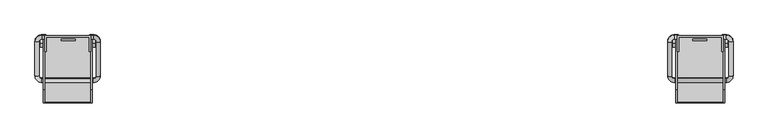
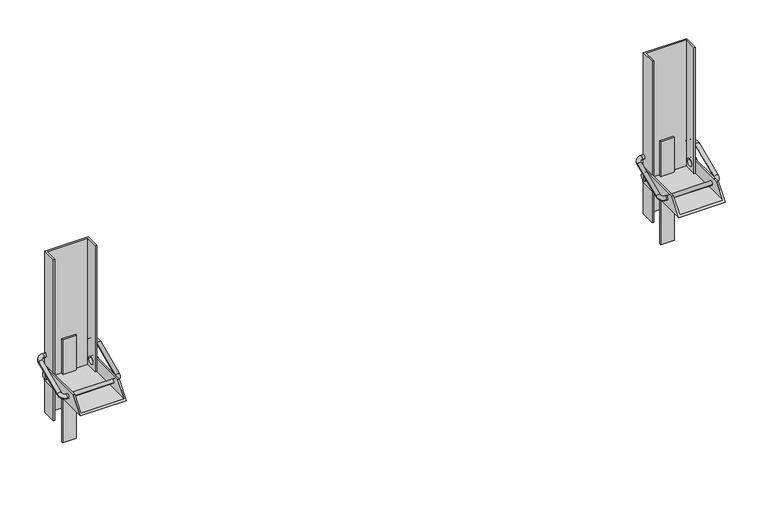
"""IFC4 building model written with IfcOpenShell, lengths in millimetres: furniture geometry, SmithSystem_AM_Table_Education_Elemental_NestAndFold_Nested_24D : 24D x 60W."""

from ifc_helpers import new_model, si_unit, point, frame, origin, place, context, project, spatial, polyline, circle_curve, ellipse_curve, trimmed, outline, extrude, source, transform, mapped, element, save
from ifc_brep_helpers import plane_surface, cylinder_surface, revolved_surface, advanced_brep


def furniture_6e8593bd(model_context):
    return source(origin(), model_context, "Body", "SolidModel", [
        advanced_brep(
        [(191.3646412, -233.0884913, 976.5612657), (102.364461, -233.0884913, 976.5612657), (102.364461, -263.8853366, 976.5612657), (105.3591064, -263.8853366, 976.5612657), (105.3591064, -236.3324929, 976.5612657), (188.3699958, -236.3324929, 976.5612657), (188.3699958, -263.8853366, 976.5612657), (191.3646412, -263.8853366, 976.5612657), (191.3646412, -233.0884913, 626.5614075), (191.3646412, -263.8853366, 626.5614075), (188.3699958, -263.8853366, 626.5614075), (188.3699958, -236.3324929, 626.5614075), (105.3591064, -236.3324929, 626.5614075), (105.3591064, -263.8853366, 626.5614075), (102.364461, -263.8853366, 626.5614075), (102.364461, -233.0884913, 626.5614075), (191.3646412, -233.0884913, 755.5311563), (189.2865294, -233.0884913, 755.5311563), (189.2865294, -233.0884913, 748.8676855), (191.3646412, -233.0884913, 748.8676855), (102.364461, -233.0884913, 748.8676855), (104.3905092, -233.0884913, 748.8676855), (104.3905092, -233.0884913, 755.5311563), (102.364461, -233.0884913, 755.5311563), (102.364461, -239.1439814, 750.5821426), (102.364461, -263.8853366, 699.4317459), (102.364461, -235.5682306, 699.4317459), (102.364461, -235.5682306, 702.6757476), (102.364461, -235.5682306, 730.2285912), (102.364461, -263.8853366, 730.2285912), (102.364461, -263.8853366, 702.6757476), (105.3591064, -263.8853366, 702.6757476), (105.3591064, -263.8853366, 699.4317459), (105.3591064, -236.3324929, 702.6757476), (105.3591064, -240.6202655, 718.1091618), (105.3591064, -255.3937208, 718.1091618), (105.3591064, -236.3324929, 699.4317459), (188.3699958, -236.3324929, 702.6757476), (188.3699958, -236.3324929, 699.4317459), (188.3699958, -263.8853366, 702.6757476), (188.3699958, -255.3937208, 718.1091618), (188.3699958, -240.6202655, 718.1091618), (188.3699958, -263.8853366, 699.4317459), (191.3646412, -263.8853366, 702.6757476), (191.3646412, -263.8853366, 730.2285912), (191.3646412, -263.8853366, 699.4317459), (191.3646412, -235.5682306, 730.2285912), (191.3646412, -235.5682306, 702.6757476), (191.3646412, -235.5682306, 699.4317459), (191.3646412, -239.1439814, 750.5821426), (99.3698156, -364.4404748, 699.4317459), (194.3592866, -364.4404748, 699.4317459), (194.3592866, -339.2625106, 730.2285912), (191.3646412, -339.2625106, 730.2285912), (191.3646412, -361.7883409, 702.6757476), (102.364461, -361.7883409, 702.6757476), (102.364461, -339.2625106, 730.2285912), (99.3698156, -339.2625106, 730.2285912), (99.3698156, -255.3937208, 718.1091618), (99.3698156, -240.6202655, 718.1091618), (194.3592866, -255.3937208, 718.1091618), (194.3592866, -240.6202655, 718.1091618), (194.3592866, -235.5682306, 730.2285912), (194.3592866, -235.5682306, 699.4317459), (99.3698156, -235.5682306, 699.4317459), (99.3698156, -235.5682306, 730.2285912), (191.3646412, -323.7756296, 713.8706356), (191.3646412, -316.3189528, 717.105192), (102.364461, -316.3189528, 717.105192), (102.364461, -323.7756296, 713.8706356), (99.3698156, -323.7756296, 713.8706356), (99.3698156, -316.3189528, 717.105192), (194.3592866, -316.3189528, 717.105192), (194.3592866, -323.7756296, 713.8706356), (189.2865294, -231.6873046, 753.8166991), (196.9664844, -231.6873046, 753.8166991), (196.9664844, -239.1439814, 750.5821426), (210.6032047, -244.1977151, 748.3899346), (202.4752047, -244.1977151, 748.3899346), (210.6032047, -311.1757086, 719.336228), (202.4752047, -311.1757086, 719.336228), (196.8689151, -323.7756296, 713.8706356), (196.8689151, -316.3189528, 717.105192), (96.7860253, -323.7756296, 713.8706356), (96.7860253, -316.3189528, 717.105192), (83.0738339, -311.1959816, 719.3274339), (91.2018339, -311.1959816, 719.3274339), (83.0738339, -244.3091339, 748.3416034), (91.2018339, -244.3091339, 748.3416034), (96.8320041, -231.6873046, 753.8166991), (96.8320041, -239.1439814, 750.5821426), (104.3905092, -231.6873046, 753.8166991)],
        [
            (0, 1),
            (1, 2),
            (2, 3),
            (3, 4),
            (4, 5),
            (5, 6),
            (6, 7),
            (7, 0),
            (8, 9),
            (9, 10),
            (10, 11),
            (11, 12),
            (12, 13),
            (13, 14),
            (14, 15),
            (15, 8),
            (0, 16),
            (16, 17),
            (17, 18),
            (18, 19),
            (19, 8),
            (15, 20),
            (20, 21),
            (21, 22),
            (22, 23),
            (23, 1),
            (23, 24, circle_curve(frame((102.364461, -235.415643, 752.1994209), z_axis=(1.0, 0.0, 0.0), x_axis=(0.0, 0.9174061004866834, 0.3979523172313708)), 4.064)),
            (24, 20, circle_curve(frame((102.364461, -235.415643, 752.1994209), z_axis=(1.0, 0.0, 0.0), x_axis=(0.0, 0.9174061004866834, 0.3979523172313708)), 4.064)),
            (14, 25),
            (25, 26),
            (26, 27),
            (27, 28),
            (28, 29),
            (29, 2),
            (29, 30),
            (30, 31),
            (31, 3),
            (13, 32),
            (32, 25),
            (31, 33),
            (33, 4),
            (34, 35, circle_curve(frame((105.3591064, -248.0069931, 718.1091618), z_axis=(-1.0, 0.0, 0.0), x_axis=(0.0, 1.0, 0.0)), 7.3867277)),
            (35, 34, circle_curve(frame((105.3591064, -248.0069931, 718.1091618), z_axis=(-1.0, 0.0, 0.0), x_axis=(0.0, 1.0, 0.0)), 7.3867277)),
            (12, 36),
            (36, 32),
            (33, 37),
            (37, 5),
            (11, 38),
            (38, 36),
            (37, 39),
            (39, 6),
            (40, 41, circle_curve(frame((188.3699958, -248.0069931, 718.1091618), z_axis=(1.0, 0.0, 0.0), x_axis=(0.0, 1.0, 0.0)), 7.3867277)),
            (41, 40, circle_curve(frame((188.3699958, -248.0069931, 718.1091618), z_axis=(1.0, 0.0, 0.0), x_axis=(0.0, 1.0, 0.0)), 7.3867277)),
            (10, 42),
            (42, 38),
            (39, 43),
            (43, 44),
            (44, 7),
            (9, 45),
            (45, 42),
            (44, 46),
            (46, 47),
            (47, 48),
            (48, 45),
            (19, 49, circle_curve(frame((191.3646412, -235.415643, 752.1994209), z_axis=(-1.0, 0.0, 0.0), x_axis=(0.0, 0.9174061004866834, 0.3979523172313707)), 4.064)),
            (49, 16, circle_curve(frame((191.3646412, -235.415643, 752.1994209), z_axis=(-1.0, 0.0, 0.0), x_axis=(0.0, 0.9174061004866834, 0.3979523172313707)), 4.064)),
            (50, 51),
            (51, 52),
            (52, 53),
            (53, 54),
            (54, 55),
            (55, 56),
            (56, 57),
            (57, 50),
            (58, 35),
            (34, 59),
            (59, 58, circle_curve(frame((99.3698156, -248.0069931, 718.1091618), z_axis=(-1.0, 0.0, 0.0), x_axis=(0.0, 1.0, 0.0)), 7.3867277)),
            (40, 60),
            (60, 61, circle_curve(frame((194.3592866, -248.0069931, 718.1091618), z_axis=(1.0, 0.0, 0.0), x_axis=(0.0, 1.0, 0.0)), 7.3867277)),
            (61, 41),
            (58, 59, circle_curve(frame((99.3698156, -248.0069931, 718.1091618), z_axis=(-1.0, 0.0, 0.0), x_axis=(0.0, 1.0, 0.0)), 7.3867277)),
            (61, 60, circle_curve(frame((194.3592866, -248.0069931, 718.1091618), z_axis=(1.0, 0.0, 0.0), x_axis=(0.0, 1.0, 0.0)), 7.3867277)),
            (46, 62),
            (62, 63),
            (63, 48),
            (64, 65),
            (65, 28),
            (26, 64),
            (63, 51),
            (50, 64),
            (43, 54),
            (53, 44),
            (66, 67, circle_curve(frame((191.3646412, -320.0472912, 715.4879138), z_axis=(1.0, 0.0, 0.0), x_axis=(0.0, -0.9174061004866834, -0.3979523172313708)), 4.064)),
            (67, 66, circle_curve(frame((191.3646412, -320.0472912, 715.4879138), z_axis=(1.0, 0.0, 0.0), x_axis=(0.0, -0.9174061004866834, -0.3979523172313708)), 4.064)),
            (52, 62),
            (30, 55),
            (65, 57),
            (56, 29),
            (68, 69, circle_curve(frame((102.364461, -320.0472912, 715.4879138), z_axis=(-1.0, 0.0, 0.0), x_axis=(0.0, -0.9174061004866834, -0.3979523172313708)), 4.064)),
            (69, 68, circle_curve(frame((102.364461, -320.0472912, 715.4879138), z_axis=(-1.0, 0.0, 0.0), x_axis=(0.0, -0.9174061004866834, -0.3979523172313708)), 4.064)),
            (70, 71, circle_curve(frame((99.3698156, -320.0472912, 715.4879138), z_axis=(1.0, 0.0, 0.0), x_axis=(0.0, -0.9174061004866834, -0.3979523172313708)), 4.064)),
            (71, 70, circle_curve(frame((99.3698156, -320.0472912, 715.4879138), z_axis=(1.0, 0.0, 0.0), x_axis=(0.0, -0.9174061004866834, -0.3979523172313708)), 4.064)),
            (72, 73, circle_curve(frame((194.3592866, -320.0472912, 715.4879138), z_axis=(-1.0, 0.0, 0.0), x_axis=(0.0, -0.9174061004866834, -0.3979523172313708)), 4.064)),
            (73, 72, circle_curve(frame((194.3592866, -320.0472912, 715.4879138), z_axis=(-1.0, 0.0, 0.0), x_axis=(0.0, -0.9174061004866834, -0.3979523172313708)), 4.064)),
            (17, 74, circle_curve(frame((189.2865294, -235.415643, 752.1994209), z_axis=(-1.0, 0.0, 0.0), x_axis=(0.0, 0.9174061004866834, 0.3979523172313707)), 4.064)),
            (74, 18, circle_curve(frame((189.2865294, -235.415643, 752.1994209), z_axis=(-1.0, 0.0, 0.0), x_axis=(0.0, 0.9174061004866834, 0.3979523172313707)), 4.064)),
            (74, 75),
            (75, 76, circle_curve(frame((196.9664844, -235.415643, 752.1994209), z_axis=(-1.0, 0.0, 0.0), x_axis=(0.0, 0.9174061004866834, 0.3979523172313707)), 4.064)),
            (76, 49),
            (76, 75, circle_curve(frame((196.9664844, -235.415643, 752.1994209), z_axis=(-1.0, 0.0, 0.0), x_axis=(0.0, 0.9174061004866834, 0.3979523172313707)), 4.064)),
            (75, 77, circle_curve(frame((196.9664844, -244.1977151, 748.3899346), z_axis=(0.0, 0.39795231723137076, -0.9174061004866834), x_axis=(0.0, 0.9174061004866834, 0.39795231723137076)), 13.6367204)),
            (77, 78, circle_curve(frame((206.5392047, -244.1977151, 748.3899346), z_axis=(0.0, 0.9174061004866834, 0.3979523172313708), x_axis=(1.0, 0.0, 0.0)), 4.064)),
            (78, 76, circle_curve(frame((196.9664844, -244.1977151, 748.3899346), z_axis=(0.0, -0.39795231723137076, 0.9174061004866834), x_axis=(0.0, 0.9174061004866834, 0.39795231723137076)), 5.5087204)),
            (78, 77, circle_curve(frame((206.5392047, -244.1977151, 748.3899346), z_axis=(0.0, 0.9174061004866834, 0.3979523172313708), x_axis=(1.0, 0.0, 0.0)), 4.064)),
            (77, 79),
            (79, 80, circle_curve(frame((206.5392047, -311.1757086, 719.336228), z_axis=(0.0, 0.917406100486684, 0.39795231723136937), x_axis=(1.0, 0.0, 0.0)), 4.064)),
            (80, 78),
            (80, 79, circle_curve(frame((206.5392047, -311.1757086, 719.336228), z_axis=(0.0, 0.917406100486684, 0.39795231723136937), x_axis=(1.0, 0.0, 0.0)), 4.064)),
            (79, 81, circle_curve(frame((196.8689151, -311.1757086, 719.336228), z_axis=(0.0, 0.39795231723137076, -0.9174061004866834), x_axis=(1.0, 0.0, 0.0)), 13.7342896)),
            (81, 82, circle_curve(frame((196.8689151, -320.0472912, 715.4879138), z_axis=(1.0, 0.0, 0.0), x_axis=(0.0, -0.9174061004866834, -0.39795231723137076)), 4.064)),
            (82, 80, circle_curve(frame((196.8689151, -311.1757086, 719.336228), z_axis=(0.0, -0.39795231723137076, 0.9174061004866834), x_axis=(1.0, 0.0, 0.0)), 5.6062896)),
            (82, 81, circle_curve(frame((196.8689151, -320.0472912, 715.4879138), z_axis=(1.0, 0.0, 0.0), x_axis=(0.0, -0.9174061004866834, -0.39795231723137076)), 4.064)),
            (81, 73),
            (72, 82),
            (83, 84, circle_curve(frame((96.7860253, -320.0472912, 715.4879138), z_axis=(1.0, 0.0, 0.0), x_axis=(0.0, -0.9174061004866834, -0.3979523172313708)), 4.064)),
            (84, 71),
            (70, 83),
            (66, 69),
            (68, 67),
            (84, 83, circle_curve(frame((96.7860253, -320.0472912, 715.4879138), z_axis=(1.0, 0.0, 0.0), x_axis=(0.0, -0.9174061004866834, -0.3979523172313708)), 4.064)),
            (83, 85, circle_curve(frame((96.7860253, -311.1959816, 719.3274339), z_axis=(0.0, 0.39795231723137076, -0.9174061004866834), x_axis=(0.0, -0.9174061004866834, -0.39795231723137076)), 13.7121914)),
            (85, 86, circle_curve(frame((87.1378339, -311.1959816, 719.3274339), z_axis=(0.0, -0.9174061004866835, -0.3979523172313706), x_axis=(-1.0, 0.0, 0.0)), 4.064)),
            (86, 84, circle_curve(frame((96.7860253, -311.1959816, 719.3274339), z_axis=(0.0, -0.39795231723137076, 0.9174061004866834), x_axis=(0.0, -0.9174061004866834, -0.39795231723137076)), 5.5841914)),
            (86, 85, circle_curve(frame((87.1378339, -311.1959816, 719.3274339), z_axis=(0.0, -0.9174061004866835, -0.3979523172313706), x_axis=(-1.0, 0.0, 0.0)), 4.064)),
            (85, 87),
            (87, 88, circle_curve(frame((87.1378339, -244.3091339, 748.3416034), z_axis=(0.0, -0.917406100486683, -0.3979523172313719), x_axis=(-1.0, 0.0, 0.0)), 4.064)),
            (88, 86),
            (88, 87, circle_curve(frame((87.1378339, -244.3091339, 748.3416034), z_axis=(0.0, -0.917406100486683, -0.3979523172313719), x_axis=(-1.0, 0.0, 0.0)), 4.064)),
            (87, 89, circle_curve(frame((96.8320041, -244.3091339, 748.3416034), z_axis=(0.0, 0.39795231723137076, -0.9174061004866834), x_axis=(-1.0, 0.0, 0.0)), 13.7581702)),
            (89, 90, circle_curve(frame((96.8320041, -235.415643, 752.1994209), z_axis=(-1.0, 0.0, 0.0), x_axis=(0.0, 0.9174061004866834, 0.39795231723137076)), 4.064)),
            (90, 88, circle_curve(frame((96.8320041, -244.3091339, 748.3416034), z_axis=(0.0, -0.39795231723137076, 0.9174061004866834), x_axis=(-1.0, 0.0, 0.0)), 5.6301702)),
            (90, 89, circle_curve(frame((96.8320041, -235.415643, 752.1994209), z_axis=(-1.0, 0.0, 0.0), x_axis=(0.0, 0.9174061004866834, 0.39795231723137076)), 4.064)),
            (21, 91, circle_curve(frame((104.3905092, -235.415643, 752.1994209), z_axis=(1.0, 0.0, 0.0), x_axis=(0.0, 0.9174061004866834, 0.3979523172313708)), 4.064)),
            (91, 22, circle_curve(frame((104.3905092, -235.415643, 752.1994209), z_axis=(1.0, 0.0, 0.0), x_axis=(0.0, 0.9174061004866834, 0.3979523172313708)), 4.064)),
            (89, 91),
            (24, 90),
        ],
        [
            plane_surface(frame((102.364461, -233.0884913, 976.5612657), z_axis=(0.0, 0.0, 1.0), x_axis=(-1.0, 0.0, 0.0))),
            plane_surface(frame((102.364461, -233.0884913, 626.5614075), z_axis=(0.0, 0.0, -1.0), x_axis=(1.0, 0.0, 0.0))),
            plane_surface(frame((191.3646412, -233.0884913, 976.5612657), z_axis=(0.0, 1.0, 0.0), x_axis=(0.0, 0.0, -1.0))),
            plane_surface(frame((102.364461, -233.0884913, 976.5612657), z_axis=(-1.0, 0.0, 0.0), x_axis=(0.0, 0.0, -1.0))),
            plane_surface(frame((102.364461, -263.8853366, 976.5612657), z_axis=(0.0, -1.0, 0.0), x_axis=(0.0, 0.0, -1.0))),
            plane_surface(frame((105.3591064, -263.8853366, 976.5612657), z_axis=(1.0, 0.0, 0.0), x_axis=(0.0, 0.0, -1.0))),
            plane_surface(frame((105.3591064, -236.3324929, 976.5612657), z_axis=(0.0, -1.0, 0.0), x_axis=(0.0, 0.0, -1.0))),
            plane_surface(frame((188.3699958, -236.3324929, 976.5612657), z_axis=(-1.0, 0.0, 0.0), x_axis=(0.0, 0.0, -1.0))),
            plane_surface(frame((188.3699958, -263.8853366, 976.5612657), z_axis=(0.0, -1.0, 0.0), x_axis=(0.0, 0.0, -1.0))),
            plane_surface(frame((191.3646412, -263.8853366, 976.5612657), z_axis=(1.0, 0.0, 0.0), x_axis=(0.0, 0.0, -1.0))),
            plane_surface(frame((1735.1900265, -372.1853048, 689.9585284), z_axis=(0.0, -0.7741969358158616, 0.6329447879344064), x_axis=(-1.0, 0.0, 0.0))),
            revolved_surface(polyline([(105.3591064, -240.6202654, 718.1091618), (99.3698156, -240.6202654, 718.1091618)]), (0.0, -248.0069931, 718.1091618), (1.0, 0.0, 0.0)),
            revolved_surface(polyline([(194.3592866, -240.6202654, 718.1091618), (188.3699958, -240.6202654, 718.1091618)]), (0.0, -248.0069931, 718.1091618), (1.0, 0.0, 0.0)),
            plane_surface(frame((102.364461, -235.5682306, 730.2285912), z_axis=(0.0, 1.0, 0.0), x_axis=(0.0, 0.0, -1.0))),
            plane_surface(frame((99.3698156, -379.4353892, 699.4317459), z_axis=(0.0, 0.0, -1.0), x_axis=(0.0, 1.0, 0.0))),
            plane_surface(frame((191.3646412, -379.4353892, 730.2285912), z_axis=(-1.0, 0.0, 0.0), x_axis=(0.0, 1.0, 0.0))),
            plane_surface(frame((194.3592866, -379.4353892, 730.2285912), z_axis=(0.0, 0.0, 1.0), x_axis=(0.0, 1.0, 0.0))),
            plane_surface(frame((191.3646412, -379.4353892, 702.6757476), z_axis=(0.0, 0.0, 1.0), x_axis=(0.0, 1.0, 0.0))),
            plane_surface(frame((102.364461, -379.4353892, 730.2285912), z_axis=(0.0, 0.0, 1.0), x_axis=(0.0, 1.0, 0.0))),
            plane_surface(frame((102.364461, -379.4353892, 702.6757476), z_axis=(1.0, 0.0, 0.0), x_axis=(0.0, 1.0, 0.0))),
            plane_surface(frame((99.3698156, -379.4353892, 730.2285912), z_axis=(-1.0, 0.0, 0.0), x_axis=(0.0, 1.0, 0.0))),
            plane_surface(frame((194.3592866, -379.4353892, 699.4317459), z_axis=(1.0, 0.0, 0.0), x_axis=(0.0, 1.0, 0.0))),
            plane_surface(frame((189.2865294, -240.7675718, 754.3284549), z_axis=(-1.0, 0.0, 0.0), x_axis=(0.0, -0.3979523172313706, 0.9174061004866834))),
            cylinder_surface(frame((189.2865294, -235.415643, 752.1994209), z_axis=(-1.0, 0.0, 0.0), x_axis=(0.0, 0.9174061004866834, 0.3979523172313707)), 4.064),
            revolved_surface(trimmed(ellipse_curve(frame((196.9664844, -235.415643, 752.1994209), z_axis=(-1.0, 0.0, 0.0), x_axis=(0.0, 0.9174061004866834, 0.3979523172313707)), 4.064, 4.064), [point((196.9664844, -231.6873046, 753.8166991))], [point((196.9664844, -239.1439814, 750.5821426))], True, "CARTESIAN"), (196.9664844, -245.8225549, 752.1357049), (0.0, 0.39795231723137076, -0.9174061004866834)),
            revolved_surface(trimmed(ellipse_curve(frame((196.9664844, -235.415643, 752.1994209), z_axis=(-1.0, 0.0, 0.0), x_axis=(0.0, 0.9174061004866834, 0.3979523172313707)), 4.064, 4.064), [point((196.9664844, -239.1439814, 750.5821426))], [point((196.9664844, -231.6873046, 753.8166991))], True, "CARTESIAN"), (196.9664844, -245.8225549, 752.1357049), (0.0, 0.39795231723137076, -0.9174061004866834)),
            cylinder_surface(frame((206.5392047, -244.1977151, 748.3899346), z_axis=(0.0, 0.917406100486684, 0.39795231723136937), x_axis=(1.0, 0.0, 0.0)), 4.064),
            revolved_surface(trimmed(ellipse_curve(frame((206.5392047, -311.1757086, 719.336228), z_axis=(0.0, 0.9174061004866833, 0.3979523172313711), x_axis=(1.0, 0.0, 0.0)), 4.064, 4.064), [point((210.6032047, -311.1757086, 719.336228))], [point((202.4752047, -311.1757086, 719.336228))], True, "CARTESIAN"), (196.8689151, -312.8005484, 723.0819983), (0.0, 0.39795231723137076, -0.9174061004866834)),
            revolved_surface(trimmed(ellipse_curve(frame((206.5392047, -311.1757086, 719.336228), z_axis=(0.0, 0.9174061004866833, 0.3979523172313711), x_axis=(1.0, 0.0, 0.0)), 4.064, 4.064), [point((202.4752047, -311.1757086, 719.336228))], [point((210.6032047, -311.1757086, 719.336228))], True, "CARTESIAN"), (196.8689151, -312.8005484, 723.0819983), (0.0, 0.39795231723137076, -0.9174061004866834)),
            cylinder_surface(frame((196.8689151, -320.0472912, 715.4879138), z_axis=(1.0000000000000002, 0.0, 0.0), x_axis=(0.0, -0.9174061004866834, -0.3979523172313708)), 4.064),
            revolved_surface(trimmed(ellipse_curve(frame((96.7860253, -320.0472912, 715.4879138), z_axis=(1.0, 0.0, 0.0), x_axis=(0.0, -0.9174061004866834, -0.3979523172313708)), 4.064, 4.064), [point((96.7860253, -323.7756296, 713.8706356))], [point((96.7860253, -316.3189528, 717.105192))], True, "CARTESIAN"), (96.7860253, -312.8208215, 723.0732043), (0.0, 0.39795231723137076, -0.9174061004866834)),
            revolved_surface(trimmed(ellipse_curve(frame((96.7860253, -320.0472912, 715.4879138), z_axis=(1.0, 0.0, 0.0), x_axis=(0.0, -0.9174061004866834, -0.3979523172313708)), 4.064, 4.064), [point((96.7860253, -316.3189528, 717.105192))], [point((96.7860253, -323.7756296, 713.8706356))], True, "CARTESIAN"), (96.7860253, -312.8208215, 723.0732043), (0.0, 0.39795231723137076, -0.9174061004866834)),
            cylinder_surface(frame((87.1378339, -311.1959816, 719.3274339), z_axis=(0.0, -0.9174061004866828, -0.3979523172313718), x_axis=(-1.0, 0.0, 0.0)), 4.064),
            revolved_surface(trimmed(ellipse_curve(frame((87.1378339, -244.3091339, 748.3416034), z_axis=(0.0, -0.9174061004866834, -0.39795231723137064), x_axis=(-1.0, 0.0, 0.0)), 4.064, 4.064), [point((83.0738339, -244.3091339, 748.3416034))], [point((91.2018339, -244.3091339, 748.3416034))], True, "CARTESIAN"), (96.8320041, -245.9339738, 752.0873737), (0.0, 0.39795231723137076, -0.9174061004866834)),
            revolved_surface(trimmed(ellipse_curve(frame((87.1378339, -244.3091339, 748.3416034), z_axis=(0.0, -0.9174061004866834, -0.39795231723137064), x_axis=(-1.0, 0.0, 0.0)), 4.064, 4.064), [point((91.2018339, -244.3091339, 748.3416034))], [point((83.0738339, -244.3091339, 748.3416034))], True, "CARTESIAN"), (96.8320041, -245.9339738, 752.0873737), (0.0, 0.39795231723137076, -0.9174061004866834)),
            plane_surface(frame((104.3905092, -240.7675718, 754.3284549), z_axis=(1.0, 0.0, 0.0), x_axis=(0.0, -0.39795231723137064, 0.9174061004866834))),
            cylinder_surface(frame((96.8320041, -235.415643, 752.1994209), z_axis=(-1.0, 0.0, 0.0), x_axis=(0.0, 0.9174061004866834, 0.3979523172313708)), 4.064),
        ],
        [
            (0, [[1, 2, 3, 4, 5, 6, 7, 8]]),
            (1, [[9, 10, 11, 12, 13, 14, 15, 16]]),
            (2, [[-1, 17, 18, 19, 20, 21, -16, 22, 23, 24, 25, 26]]),
            (3, [[-2, -26, 27, 28, -22, -15, 29, 30, 31, 32, 33, 34]]),
            (4, [[-3, -34, 35, 36, 37]]),
            (4, [[-14, 38, 39, -29]]),
            (5, [[-4, -37, 40, 41], [42, 43]]),
            (5, [[-13, 44, 45, -38]]),
            (6, [[-5, -41, 46, 47]]),
            (6, [[-12, 48, 49, -44]]),
            (7, [[-6, -47, 50, 51], [52, 53]]),
            (7, [[-11, 54, 55, -48]]),
            (8, [[-7, -51, 56, 57, 58]]),
            (8, [[-10, 59, 60, -54]]),
            (9, [[-8, -58, 61, 62, 63, 64, -59, -9, -21, 65, 66, -17]]),
            (10, [[67, 68, 69, 70, 71, 72, 73, 74]]),
            (11, [[75, -42, 76, 77]]),
            (12, [[78, 79, 80, -52]]),
            (11, [[-75, 81, -76, -43]]),
            (12, [[-78, -53, -80, 82]]),
            (13, [[83, 84, 85, -63, -62]]),
            (13, [[86, 87, -32, -31, 88]]),
            (14, [[-88, -30, -39, -45, -49, -55, -60, -64, -85, 89, -67, 90]]),
            (15, [[-57, 91, -70, 92], [93, 94]]),
            (16, [[-83, -61, -92, -69, 95]]),
            (17, [[-36, 96, -71, -91, -56, -50, -46, -40]]),
            (18, [[-87, 97, -73, 98, -33]]),
            (19, [[-35, -98, -72, -96], [99, 100]]),
            (20, [[-86, -90, -74, -97], [-77, -81], [101, 102]]),
            (21, [[-84, -95, -68, -89], [-79, -82], [103, 104]]),
            (22, [[105, 106, -19]]),
            (23, [[107, 108, 109, -65, -20, -106]]),
            (23, [[-107, -105, -18, -66, -109, 110]]),
            (24, [[-108, 111, 112, 113]]),
            (25, [[-110, -113, 114, -111]]),
            (26, [[-112, 115, 116, 117]]),
            (26, [[-114, -117, 118, -115]]),
            (27, [[-116, 119, 120, 121]]),
            (28, [[-118, -121, 122, -119]]),
            (29, [[-120, 123, -103, 124]]),
            (29, [[125, 126, -101, 127]]),
            (29, [[128, -99, 129, -93]]),
            (29, [[-122, -124, -104, -123]]),
            (29, [[-128, -94, -129, -100]]),
            (29, [[130, -127, -102, -126]]),
            (30, [[-125, 131, 132, 133]]),
            (31, [[-130, -133, 134, -131]]),
            (32, [[-132, 135, 136, 137]]),
            (32, [[-134, -137, 138, -135]]),
            (33, [[-136, 139, 140, 141]]),
            (34, [[-138, -141, 142, -139]]),
            (35, [[143, 144, -24]]),
            (36, [[-140, 145, -143, -23, -28, 146]]),
            (36, [[-142, -146, -27, -25, -144, -145]]),
        ],
    ),
        advanced_brep(
        [(1332.6353588, -233.0884913, 976.5612657), (1332.6353588, -263.8853366, 976.5612657), (1335.6300042, -263.8853366, 976.5612657), (1335.6300042, -236.3324929, 976.5612657), (1418.6408936, -236.3324929, 976.5612657), (1418.6408936, -263.8853366, 976.5612657), (1421.635539, -263.8853366, 976.5612657), (1421.635539, -233.0884913, 976.5612657), (1332.6353588, -233.0884913, 626.5614075), (1421.635539, -233.0884913, 626.5614075), (1421.635539, -263.8853366, 626.5614075), (1418.6408936, -263.8853366, 626.5614075), (1418.6408936, -236.3324929, 626.5614075), (1335.6300042, -236.3324929, 626.5614075), (1335.6300042, -263.8853366, 626.5614075), (1332.6353588, -263.8853366, 626.5614075), (1332.6353588, -233.0884913, 755.5311563), (1332.6353588, -239.1439814, 750.5821426), (1332.6353588, -233.0884913, 748.8676855), (1332.6353588, -263.8853366, 699.4317459), (1332.6353588, -235.5682306, 699.4317459), (1332.6353588, -235.5682306, 702.6757476), (1332.6353588, -235.5682306, 730.2285912), (1332.6353588, -263.8853366, 730.2285912), (1332.6353588, -263.8853366, 702.6757476), (1335.6300042, -263.8853366, 702.6757476), (1335.6300042, -263.8853366, 699.4317459), (1335.6300042, -236.3324929, 702.6757476), (1335.6300042, -240.6202655, 718.1091618), (1335.6300042, -255.3937208, 718.1091618), (1335.6300042, -236.3324929, 699.4317459), (1418.6408936, -236.3324929, 702.6757476), (1418.6408936, -236.3324929, 699.4317459), (1418.6408936, -263.8853366, 702.6757476), (1418.6408936, -255.3937208, 718.1091618), (1418.6408936, -240.6202655, 718.1091618), (1418.6408936, -263.8853366, 699.4317459), (1421.635539, -263.8853366, 702.6757476), (1421.635539, -263.8853366, 730.2285912), (1421.635539, -263.8853366, 699.4317459), (1421.635539, -235.5682306, 730.2285912), (1421.635539, -235.5682306, 702.6757476), (1421.635539, -235.5682306, 699.4317459), (1421.635539, -233.0884913, 748.8676855), (1421.635539, -239.1439814, 750.5821426), (1421.635539, -233.0884913, 755.5311563), (1419.6094908, -233.0884913, 755.5311563), (1419.6094908, -233.0884913, 748.8676855), (1334.7134706, -233.0884913, 748.8676855), (1334.7134706, -233.0884913, 755.5311563), (1421.635539, -361.7883409, 702.6757476), (1332.6353588, -361.7883409, 702.6757476), (1332.6353588, -339.2625106, 730.2285912), (1329.6407134, -339.2625106, 730.2285912), (1329.6407134, -364.4404748, 699.4317459), (1424.6301844, -364.4404748, 699.4317459), (1424.6301844, -339.2625106, 730.2285912), (1421.635539, -339.2625106, 730.2285912), (1424.6301844, -255.3937208, 718.1091618), (1424.6301844, -240.6202655, 718.1091618), (1329.6407134, -255.3937208, 718.1091618), (1329.6407134, -240.6202655, 718.1091618), (1424.6301844, -235.5682306, 730.2285912), (1424.6301844, -235.5682306, 699.4317459), (1329.6407134, -235.5682306, 699.4317459), (1329.6407134, -235.5682306, 730.2285912), (1332.6353588, -323.7756296, 713.8706356), (1332.6353588, -316.3189528, 717.105192), (1329.6407134, -316.3189528, 717.105192), (1329.6407134, -323.7756296, 713.8706356), (1424.6301844, -323.7756296, 713.8706356), (1424.6301844, -316.3189528, 717.105192), (1421.635539, -316.3189528, 717.105192), (1421.635539, -323.7756296, 713.8706356), (1334.7134706, -231.6873046, 753.8166991), (1327.0335156, -231.6873046, 753.8166991), (1327.0335156, -239.1439814, 750.5821426), (1313.3967953, -244.1977151, 748.3899346), (1321.5247953, -244.1977151, 748.3899346), (1313.3967953, -311.1757086, 719.336228), (1321.5247953, -311.1757086, 719.336228), (1327.1310849, -323.7756296, 713.8706356), (1327.1310849, -316.3189528, 717.105192), (1427.2139747, -323.7756296, 713.8706356), (1427.2139747, -316.3189528, 717.105192), (1440.9261661, -311.1959816, 719.3274339), (1432.7981661, -311.1959816, 719.3274339), (1440.9261661, -244.3091339, 748.3416034), (1432.7981661, -244.3091339, 748.3416034), (1427.1679959, -231.6873046, 753.8166991), (1427.1679959, -239.1439814, 750.5821426), (1419.6094908, -231.6873046, 753.8166991)],
        [
            (0, 1),
            (1, 2),
            (2, 3),
            (3, 4),
            (4, 5),
            (5, 6),
            (6, 7),
            (7, 0),
            (8, 9),
            (9, 10),
            (10, 11),
            (11, 12),
            (12, 13),
            (13, 14),
            (14, 15),
            (15, 8),
            (0, 16),
            (16, 17, circle_curve(frame((1332.6353588, -235.415643, 752.1994209), z_axis=(1.0, 0.0, 0.0), x_axis=(0.0, -0.9174061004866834, -0.39795231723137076)), 4.064)),
            (17, 18, circle_curve(frame((1332.6353588, -235.415643, 752.1994209), z_axis=(1.0, 0.0, 0.0), x_axis=(0.0, -0.9174061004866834, -0.39795231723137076)), 4.064)),
            (18, 8),
            (15, 19),
            (19, 20),
            (20, 21),
            (21, 22),
            (22, 23),
            (23, 1),
            (23, 24),
            (24, 25),
            (25, 2),
            (14, 26),
            (26, 19),
            (25, 27),
            (27, 3),
            (28, 29, circle_curve(frame((1335.6300042, -248.0069931, 718.1091618), z_axis=(-1.0, 0.0, 0.0), x_axis=(0.0, 1.0, 0.0)), 7.3867277)),
            (29, 28, circle_curve(frame((1335.6300042, -248.0069931, 718.1091618), z_axis=(-1.0, 0.0, 0.0), x_axis=(0.0, 1.0, 0.0)), 7.3867277)),
            (13, 30),
            (30, 26),
            (27, 31),
            (31, 4),
            (12, 32),
            (32, 30),
            (31, 33),
            (33, 5),
            (34, 35, circle_curve(frame((1418.6408936, -248.0069931, 718.1091618), z_axis=(1.0, 0.0, 0.0), x_axis=(0.0, 1.0, 0.0)), 7.3867277)),
            (35, 34, circle_curve(frame((1418.6408936, -248.0069931, 718.1091618), z_axis=(1.0, 0.0, 0.0), x_axis=(0.0, 1.0, 0.0)), 7.3867277)),
            (11, 36),
            (36, 32),
            (33, 37),
            (37, 38),
            (38, 6),
            (10, 39),
            (39, 36),
            (38, 40),
            (40, 41),
            (41, 42),
            (42, 39),
            (9, 43),
            (43, 44, circle_curve(frame((1421.635539, -235.415643, 752.1994209), z_axis=(-1.0, 0.0, 0.0), x_axis=(0.0, -0.9174061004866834, -0.3979523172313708)), 4.064)),
            (44, 45, circle_curve(frame((1421.635539, -235.415643, 752.1994209), z_axis=(-1.0, 0.0, 0.0), x_axis=(0.0, -0.9174061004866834, -0.3979523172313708)), 4.064)),
            (45, 7),
            (45, 46),
            (46, 47),
            (47, 43),
            (18, 48),
            (48, 49),
            (49, 16),
            (50, 51),
            (51, 52),
            (52, 53),
            (53, 54),
            (54, 55),
            (55, 56),
            (56, 57),
            (57, 50),
            (34, 58),
            (58, 59, circle_curve(frame((1424.6301844, -248.0069931, 718.1091618), z_axis=(1.0, 0.0, 0.0), x_axis=(0.0, 1.0, 0.0)), 7.3867277)),
            (59, 35),
            (60, 29),
            (28, 61),
            (61, 60, circle_curve(frame((1329.6407134, -248.0069931, 718.1091618), z_axis=(-1.0, 0.0, 0.0), x_axis=(0.0, 1.0, 0.0)), 7.3867277)),
            (59, 58, circle_curve(frame((1424.6301844, -248.0069931, 718.1091618), z_axis=(1.0, 0.0, 0.0), x_axis=(0.0, 1.0, 0.0)), 7.3867277)),
            (60, 61, circle_curve(frame((1329.6407134, -248.0069931, 718.1091618), z_axis=(-1.0, 0.0, 0.0), x_axis=(0.0, 1.0, 0.0)), 7.3867277)),
            (40, 62),
            (62, 63),
            (63, 42),
            (64, 65),
            (65, 22),
            (20, 64),
            (24, 51),
            (50, 37),
            (23, 52),
            (66, 67, circle_curve(frame((1332.6353588, -320.0472912, 715.4879138), z_axis=(-1.0, 0.0, 0.0), x_axis=(0.0, 0.9174061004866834, 0.3979523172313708)), 4.064)),
            (67, 66, circle_curve(frame((1332.6353588, -320.0472912, 715.4879138), z_axis=(-1.0, 0.0, 0.0), x_axis=(0.0, 0.9174061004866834, 0.3979523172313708)), 4.064)),
            (65, 53),
            (64, 54),
            (68, 69, circle_curve(frame((1329.6407134, -320.0472912, 715.4879138), z_axis=(1.0, 0.0, 0.0), x_axis=(0.0, 0.9174061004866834, 0.3979523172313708)), 4.064)),
            (69, 68, circle_curve(frame((1329.6407134, -320.0472912, 715.4879138), z_axis=(1.0, 0.0, 0.0), x_axis=(0.0, 0.9174061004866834, 0.3979523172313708)), 4.064)),
            (63, 55),
            (62, 56),
            (70, 71, circle_curve(frame((1424.6301844, -320.0472912, 715.4879138), z_axis=(-1.0, 0.0, 0.0), x_axis=(0.0, 0.9174061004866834, 0.3979523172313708)), 4.064)),
            (71, 70, circle_curve(frame((1424.6301844, -320.0472912, 715.4879138), z_axis=(-1.0, 0.0, 0.0), x_axis=(0.0, 0.9174061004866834, 0.3979523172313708)), 4.064)),
            (38, 57),
            (72, 73, circle_curve(frame((1421.635539, -320.0472912, 715.4879138), z_axis=(1.0, 0.0, 0.0), x_axis=(0.0, 0.9174061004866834, 0.3979523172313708)), 4.064)),
            (73, 72, circle_curve(frame((1421.635539, -320.0472912, 715.4879138), z_axis=(1.0, 0.0, 0.0), x_axis=(0.0, 0.9174061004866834, 0.3979523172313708)), 4.064)),
            (74, 49, circle_curve(frame((1334.7134706, -235.415643, 752.1994209), z_axis=(1.0, 0.0, 0.0), x_axis=(0.0, -0.9174061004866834, -0.39795231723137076)), 4.064)),
            (48, 74, circle_curve(frame((1334.7134706, -235.415643, 752.1994209), z_axis=(1.0, 0.0, 0.0), x_axis=(0.0, -0.9174061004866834, -0.39795231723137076)), 4.064)),
            (74, 75),
            (75, 76, circle_curve(frame((1327.0335156, -235.415643, 752.1994209), z_axis=(1.0, 0.0, 0.0), x_axis=(0.0, -0.9174061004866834, -0.39795231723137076)), 4.064)),
            (76, 17),
            (76, 75, circle_curve(frame((1327.0335156, -235.415643, 752.1994209), z_axis=(1.0, 0.0, 0.0), x_axis=(0.0, -0.9174061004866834, -0.39795231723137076)), 4.064)),
            (75, 77, circle_curve(frame((1327.0335156, -244.1977151, 748.3899346), z_axis=(0.0, -0.3979523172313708, 0.9174061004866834), x_axis=(0.0, 0.9174061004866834, 0.3979523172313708)), 13.6367204)),
            (77, 78, circle_curve(frame((1317.4607953, -244.1977151, 748.3899346), z_axis=(0.0, 0.9174061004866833, 0.39795231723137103), x_axis=(1.0, 0.0, 0.0)), 4.064)),
            (78, 76, circle_curve(frame((1327.0335156, -244.1977151, 748.3899346), z_axis=(0.0, 0.3979523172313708, -0.9174061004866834), x_axis=(0.0, 0.9174061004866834, 0.3979523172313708)), 5.5087204)),
            (78, 77, circle_curve(frame((1317.4607953, -244.1977151, 748.3899346), z_axis=(0.0, 0.9174061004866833, 0.39795231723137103), x_axis=(1.0, 0.0, 0.0)), 4.064)),
            (77, 79),
            (79, 80, circle_curve(frame((1317.4607953, -311.1757086, 719.336228), z_axis=(0.0, 0.9174061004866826, 0.39795231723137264), x_axis=(1.0, 0.0, 0.0)), 4.064)),
            (80, 78),
            (80, 79, circle_curve(frame((1317.4607953, -311.1757086, 719.336228), z_axis=(0.0, 0.9174061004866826, 0.39795231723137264), x_axis=(1.0, 0.0, 0.0)), 4.064)),
            (79, 81, circle_curve(frame((1327.1310849, -311.1757086, 719.336228), z_axis=(0.0, -0.3979523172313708, 0.9174061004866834), x_axis=(-1.0, 0.0, 0.0)), 13.7342896)),
            (81, 82, circle_curve(frame((1327.1310849, -320.0472912, 715.4879138), z_axis=(-1.0, 0.0, 0.0), x_axis=(0.0, 0.9174061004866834, 0.39795231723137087)), 4.064)),
            (82, 80, circle_curve(frame((1327.1310849, -311.1757086, 719.336228), z_axis=(0.0, 0.3979523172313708, -0.9174061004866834), x_axis=(-1.0, 0.0, 0.0)), 5.6062896)),
            (82, 81, circle_curve(frame((1327.1310849, -320.0472912, 715.4879138), z_axis=(-1.0, 0.0, 0.0), x_axis=(0.0, 0.9174061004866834, 0.39795231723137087)), 4.064)),
            (81, 69),
            (68, 82),
            (83, 84, circle_curve(frame((1427.2139747, -320.0472912, 715.4879138), z_axis=(-1.0, 0.0, 0.0), x_axis=(0.0, 0.9174061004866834, 0.3979523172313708)), 4.064)),
            (84, 71),
            (70, 83),
            (66, 73),
            (72, 67),
            (84, 83, circle_curve(frame((1427.2139747, -320.0472912, 715.4879138), z_axis=(-1.0, 0.0, 0.0), x_axis=(0.0, 0.9174061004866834, 0.3979523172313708)), 4.064)),
            (83, 85, circle_curve(frame((1427.2139747, -311.1959816, 719.3274339), z_axis=(0.0, -0.3979523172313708, 0.9174061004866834), x_axis=(0.0, -0.9174061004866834, -0.3979523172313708)), 13.7121914)),
            (85, 86, circle_curve(frame((1436.8621661, -311.1959816, 719.3274339), z_axis=(0.0, -0.9174061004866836, -0.3979523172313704), x_axis=(-1.0, 0.0, 0.0)), 4.064)),
            (86, 84, circle_curve(frame((1427.2139747, -311.1959816, 719.3274339), z_axis=(0.0, 0.3979523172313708, -0.9174061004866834), x_axis=(0.0, -0.9174061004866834, -0.3979523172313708)), 5.5841914)),
            (86, 85, circle_curve(frame((1436.8621661, -311.1959816, 719.3274339), z_axis=(0.0, -0.9174061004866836, -0.3979523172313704), x_axis=(-1.0, 0.0, 0.0)), 4.064)),
            (85, 87),
            (87, 88, circle_curve(frame((1436.8621661, -244.3091339, 748.3416034), z_axis=(0.0, -0.9174061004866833, -0.3979523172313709), x_axis=(-1.0, 0.0, 0.0)), 4.064)),
            (88, 86),
            (88, 87, circle_curve(frame((1436.8621661, -244.3091339, 748.3416034), z_axis=(0.0, -0.9174061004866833, -0.3979523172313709), x_axis=(-1.0, 0.0, 0.0)), 4.064)),
            (87, 89, circle_curve(frame((1427.1679959, -244.3091339, 748.3416034), z_axis=(0.0, -0.3979523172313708, 0.9174061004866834), x_axis=(1.0, 0.0, 0.0)), 13.7581702)),
            (89, 90, circle_curve(frame((1427.1679959, -235.415643, 752.1994209), z_axis=(1.0, 0.0, 0.0), x_axis=(0.0, -0.9174061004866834, -0.3979523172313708)), 4.064)),
            (90, 88, circle_curve(frame((1427.1679959, -244.3091339, 748.3416034), z_axis=(0.0, 0.3979523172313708, -0.9174061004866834), x_axis=(1.0, 0.0, 0.0)), 5.6301702)),
            (90, 89, circle_curve(frame((1427.1679959, -235.415643, 752.1994209), z_axis=(1.0, 0.0, 0.0), x_axis=(0.0, -0.9174061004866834, -0.3979523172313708)), 4.064)),
            (91, 47, circle_curve(frame((1419.6094908, -235.415643, 752.1994209), z_axis=(-1.0, 0.0, 0.0), x_axis=(0.0, -0.9174061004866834, -0.3979523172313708)), 4.064)),
            (46, 91, circle_curve(frame((1419.6094908, -235.415643, 752.1994209), z_axis=(-1.0, 0.0, 0.0), x_axis=(0.0, -0.9174061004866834, -0.3979523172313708)), 4.064)),
            (89, 91),
            (44, 90),
        ],
        [
            plane_surface(frame((102.364461, -233.0884913, 976.5612657), z_axis=(0.0, 0.0, 1.0), x_axis=(-1.0, 0.0, 0.0))),
            plane_surface(frame((102.364461, -233.0884913, 626.5614075), z_axis=(0.0, 0.0, -1.0), x_axis=(1.0, 0.0, 0.0))),
            plane_surface(frame((1332.6353588, -233.0884913, 976.5612657), z_axis=(-1.0, 0.0, 0.0), x_axis=(0.0, 0.0, -1.0))),
            plane_surface(frame((1332.6353588, -263.8853366, 976.5612657), z_axis=(0.0, -1.0, 0.0), x_axis=(0.0, 0.0, -1.0))),
            plane_surface(frame((1335.6300042, -263.8853366, 976.5612657), z_axis=(1.0, 0.0, 0.0), x_axis=(0.0, 0.0, -1.0))),
            plane_surface(frame((1335.6300042, -236.3324929, 976.5612657), z_axis=(0.0, -1.0, 0.0), x_axis=(0.0, 0.0, -1.0))),
            plane_surface(frame((1418.6408936, -236.3324929, 976.5612657), z_axis=(-1.0, 0.0, 0.0), x_axis=(0.0, 0.0, -1.0))),
            plane_surface(frame((1418.6408936, -263.8853366, 976.5612657), z_axis=(0.0, -1.0, 0.0), x_axis=(0.0, 0.0, -1.0))),
            plane_surface(frame((1421.635539, -263.8853366, 976.5612657), z_axis=(1.0, 0.0, 0.0), x_axis=(0.0, 0.0, -1.0))),
            plane_surface(frame((1421.635539, -233.0884913, 976.5612657), z_axis=(0.0, 1.0, 0.0), x_axis=(0.0, 0.0, -1.0))),
            plane_surface(frame((1735.1900265, -372.1853048, 689.9585284), z_axis=(0.0, -0.7741969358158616, 0.6329447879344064), x_axis=(-1.0, 0.0, 0.0))),
            revolved_surface(polyline([(1424.6301844, -240.6202654, 718.1091618), (1418.6408936, -240.6202654, 718.1091618)]), (0.0, -248.0069931, 718.1091618), (1.0, 0.0, 0.0)),
            revolved_surface(polyline([(1335.6300042, -240.6202654, 718.1091618), (1329.6407134, -240.6202654, 718.1091618)]), (0.0, -248.0069931, 718.1091618), (1.0, 0.0, 0.0)),
            plane_surface(frame((102.364461, -235.5682306, 730.2285912), z_axis=(0.0, 1.0, 0.0), x_axis=(0.0, 0.0, -1.0))),
            plane_surface(frame((1421.635539, -379.4353892, 702.6757476), z_axis=(0.0, 0.0, 1.0), x_axis=(0.0, 1.0, 0.0))),
            plane_surface(frame((1332.6353588, -379.4353892, 702.6757476), z_axis=(1.0, 0.0, 0.0), x_axis=(0.0, 1.0, 0.0))),
            plane_surface(frame((1332.6353588, -379.4353892, 730.2285912), z_axis=(0.0, 0.0, 1.0), x_axis=(0.0, 1.0, 0.0))),
            plane_surface(frame((1329.6407134, -379.4353892, 730.2285912), z_axis=(-1.0, 0.0, 0.0), x_axis=(0.0, 1.0, 0.0))),
            plane_surface(frame((1329.6407134, -379.4353892, 699.4317459), z_axis=(0.0, 0.0, -1.0), x_axis=(0.0, 1.0, 0.0))),
            plane_surface(frame((1424.6301844, -379.4353892, 699.4317459), z_axis=(1.0, 0.0, 0.0), x_axis=(0.0, 1.0, 0.0))),
            plane_surface(frame((1424.6301844, -379.4353892, 730.2285912), z_axis=(0.0, 0.0, 1.0), x_axis=(0.0, 1.0, 0.0))),
            plane_surface(frame((1421.635539, -379.4353892, 730.2285912), z_axis=(-1.0, 0.0, 0.0), x_axis=(0.0, 1.0, 0.0))),
            plane_surface(frame((1334.7134706, -240.7675718, 754.3284549), z_axis=(1.0000000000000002, 0.0, 0.0), x_axis=(0.0, -0.39795231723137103, 0.9174061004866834))),
            cylinder_surface(frame((1334.7134706, -235.415643, 752.1994209), z_axis=(1.0000000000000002, 0.0, 0.0), x_axis=(0.0, -0.9174061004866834, -0.39795231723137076)), 4.064),
            revolved_surface(trimmed(ellipse_curve(frame((1327.0335156, -235.415643, 752.1994209), z_axis=(1.0, 0.0, 0.0), x_axis=(0.0, -0.9174061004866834, -0.39795231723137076)), 4.064, 4.064), [point((1327.0335156, -231.6873046, 753.8166991))], [point((1327.0335156, -239.1439814, 750.5821426))], True, "CARTESIAN"), (1327.0335156, -245.8225549, 752.1357049), (0.0, -0.3979523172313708, 0.9174061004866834)),
            revolved_surface(trimmed(ellipse_curve(frame((1327.0335156, -235.415643, 752.1994209), z_axis=(1.0, 0.0, 0.0), x_axis=(0.0, -0.9174061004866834, -0.39795231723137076)), 4.064, 4.064), [point((1327.0335156, -239.1439814, 750.5821426))], [point((1327.0335156, -231.6873046, 753.8166991))], True, "CARTESIAN"), (1327.0335156, -245.8225549, 752.1357049), (0.0, -0.3979523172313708, 0.9174061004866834)),
            cylinder_surface(frame((1317.4607953, -244.1977151, 748.3899346), z_axis=(0.0, 0.9174061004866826, 0.39795231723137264), x_axis=(1.0, 0.0, 0.0)), 4.064),
            revolved_surface(trimmed(ellipse_curve(frame((1317.4607953, -311.1757086, 719.336228), z_axis=(0.0, 0.9174061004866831, 0.3979523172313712), x_axis=(1.0, 0.0, 0.0)), 4.064, 4.064), [point((1313.3967953, -311.1757086, 719.336228))], [point((1321.5247953, -311.1757086, 719.336228))], True, "CARTESIAN"), (1327.1310849, -312.8005484, 723.0819983), (0.0, -0.3979523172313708, 0.9174061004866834)),
            revolved_surface(trimmed(ellipse_curve(frame((1317.4607953, -311.1757086, 719.336228), z_axis=(0.0, 0.9174061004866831, 0.3979523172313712), x_axis=(1.0, 0.0, 0.0)), 4.064, 4.064), [point((1321.5247953, -311.1757086, 719.336228))], [point((1313.3967953, -311.1757086, 719.336228))], True, "CARTESIAN"), (1327.1310849, -312.8005484, 723.0819983), (0.0, -0.3979523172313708, 0.9174061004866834)),
            cylinder_surface(frame((1327.1310849, -320.0472912, 715.4879138), z_axis=(-1.0000000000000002, 0.0, 0.0), x_axis=(0.0, 0.9174061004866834, 0.3979523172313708)), 4.064),
            revolved_surface(trimmed(ellipse_curve(frame((1427.2139747, -320.0472912, 715.4879138), z_axis=(-1.0, 0.0, 0.0), x_axis=(0.0, 0.9174061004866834, 0.3979523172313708)), 4.064, 4.064), [point((1427.2139747, -323.7756296, 713.8706356))], [point((1427.2139747, -316.3189528, 717.105192))], True, "CARTESIAN"), (1427.2139747, -312.8208215, 723.0732043), (0.0, -0.3979523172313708, 0.9174061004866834)),
            revolved_surface(trimmed(ellipse_curve(frame((1427.2139747, -320.0472912, 715.4879138), z_axis=(-1.0, 0.0, 0.0), x_axis=(0.0, 0.9174061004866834, 0.3979523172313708)), 4.064, 4.064), [point((1427.2139747, -316.3189528, 717.105192))], [point((1427.2139747, -323.7756296, 713.8706356))], True, "CARTESIAN"), (1427.2139747, -312.8208215, 723.0732043), (0.0, -0.3979523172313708, 0.9174061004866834)),
            cylinder_surface(frame((1436.8621661, -311.1959816, 719.3274339), z_axis=(0.0, -0.9174061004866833, -0.3979523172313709), x_axis=(-1.0, 0.0, 0.0)), 4.064),
            revolved_surface(trimmed(ellipse_curve(frame((1436.8621661, -244.3091339, 748.3416034), z_axis=(0.0, -0.9174061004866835, -0.3979523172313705), x_axis=(-1.0, 0.0, 0.0)), 4.064, 4.064), [point((1440.9261661, -244.3091339, 748.3416034))], [point((1432.7981661, -244.3091339, 748.3416034))], True, "CARTESIAN"), (1427.1679959, -245.9339738, 752.0873737), (0.0, -0.3979523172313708, 0.9174061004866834)),
            revolved_surface(trimmed(ellipse_curve(frame((1436.8621661, -244.3091339, 748.3416034), z_axis=(0.0, -0.9174061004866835, -0.3979523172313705), x_axis=(-1.0, 0.0, 0.0)), 4.064, 4.064), [point((1432.7981661, -244.3091339, 748.3416034))], [point((1440.9261661, -244.3091339, 748.3416034))], True, "CARTESIAN"), (1427.1679959, -245.9339738, 752.0873737), (0.0, -0.3979523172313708, 0.9174061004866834)),
            plane_surface(frame((1419.6094908, -240.7675718, 754.3284549), z_axis=(-1.0, 0.0, 0.0), x_axis=(0.0, -0.39795231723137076, 0.9174061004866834))),
            cylinder_surface(frame((1427.1679959, -235.415643, 752.1994209), z_axis=(1.0000000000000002, 0.0, 0.0), x_axis=(0.0, -0.9174061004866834, -0.3979523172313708)), 4.064),
        ],
        [
            (0, [[1, 2, 3, 4, 5, 6, 7, 8]]),
            (1, [[9, 10, 11, 12, 13, 14, 15, 16]]),
            (2, [[-1, 17, 18, 19, 20, -16, 21, 22, 23, 24, 25, 26]]),
            (3, [[-2, -26, 27, 28, 29]]),
            (3, [[-15, 30, 31, -21]]),
            (4, [[-3, -29, 32, 33], [34, 35]]),
            (4, [[-14, 36, 37, -30]]),
            (5, [[-4, -33, 38, 39]]),
            (5, [[-13, 40, 41, -36]]),
            (6, [[-5, -39, 42, 43], [44, 45]]),
            (6, [[-12, 46, 47, -40]]),
            (7, [[-6, -43, 48, 49, 50]]),
            (7, [[-11, 51, 52, -46]]),
            (8, [[-7, -50, 53, 54, 55, 56, -51, -10, 57, 58, 59, 60]]),
            (9, [[-8, -60, 61, 62, 63, -57, -9, -20, 64, 65, 66, -17]]),
            (10, [[67, 68, 69, 70, 71, 72, 73, 74]]),
            (11, [[75, 76, 77, -44]]),
            (12, [[78, -34, 79, 80]]),
            (11, [[-75, -45, -77, 81]]),
            (12, [[-78, 82, -79, -35]]),
            (13, [[83, 84, 85, -55, -54]]),
            (13, [[86, 87, -24, -23, 88]]),
            (14, [[-28, 89, -67, 90, -48, -42, -38, -32]]),
            (15, [[-27, 91, -68, -89], [92, 93]]),
            (16, [[-87, 94, -69, -91, -25]]),
            (17, [[-86, 95, -70, -94], [-80, -82], [96, 97]]),
            (18, [[-88, -22, -31, -37, -41, -47, -52, -56, -85, 98, -71, -95]]),
            (19, [[-84, 99, -72, -98], [-76, -81], [100, 101]]),
            (20, [[-83, -53, 102, -73, -99]]),
            (21, [[-49, -90, -74, -102], [103, 104]]),
            (22, [[105, -65, 106]]),
            (23, [[107, 108, 109, -18, -66, -105]]),
            (23, [[-107, -106, -64, -19, -109, 110]]),
            (24, [[-108, 111, 112, 113]]),
            (25, [[-110, -113, 114, -111]]),
            (26, [[-112, 115, 116, 117]]),
            (26, [[-114, -117, 118, -115]]),
            (27, [[-116, 119, 120, 121]]),
            (28, [[-118, -121, 122, -119]]),
            (29, [[-120, 123, -96, 124]]),
            (29, [[125, 126, -100, 127]]),
            (29, [[128, -103, 129, -92]]),
            (29, [[-122, -124, -97, -123]]),
            (29, [[-128, -93, -129, -104]]),
            (29, [[130, -127, -101, -126]]),
            (30, [[-125, 131, 132, 133]]),
            (31, [[-130, -133, 134, -131]]),
            (32, [[-132, 135, 136, 137]]),
            (32, [[-134, -137, 138, -135]]),
            (33, [[-136, 139, 140, 141]]),
            (34, [[-138, -141, 142, -139]]),
            (35, [[143, -62, 144]]),
            (36, [[-140, 145, -144, -61, -59, 146]]),
            (36, [[-142, -146, -58, -63, -143, -145]]),
        ],
    ),
        advanced_brep(
        [(93.6099735, -248.0069931, 710.7224341), (93.6099735, -248.0069931, 725.4958895), (99.3698156, -248.0069931, 725.4958895), (99.3698156, -248.0069931, 710.7224341), (93.6099735, -248.0069931, 718.1091618), (99.3698156, -248.0069931, 718.1091618)],
        [
            (0, 1, circle_curve(frame((93.6099735, -248.0069931, 718.1091618), z_axis=(1.0, 0.0, 0.0), x_axis=(0.0, 0.0, 1.0)), 7.3867277)),
            (1, 2),
            (2, 3, circle_curve(frame((99.3698156, -248.0069931, 718.1091618), z_axis=(-1.0, 0.0, 0.0), x_axis=(0.0, 0.0, 1.0)), 7.3867277)),
            (3, 0),
            (1, 0, circle_curve(frame((93.6099735, -248.0069931, 718.1091618), z_axis=(1.0, 0.0, 0.0), x_axis=(0.0, 0.0, 1.0)), 7.3867277)),
            (3, 2, circle_curve(frame((99.3698156, -248.0069931, 718.1091618), z_axis=(-1.0, 0.0, 0.0), x_axis=(0.0, 0.0, 1.0)), 7.3867277)),
            (4, 1),
            (0, 4),
            (2, 5),
            (5, 3),
        ],
        [
            cylinder_surface(frame((200.1191287, -248.0069931, 718.1091618), z_axis=(-1.0, 0.0, 0.0), x_axis=(0.0, 0.0, 1.0)), 7.3867277),
            plane_surface(frame((93.6099735, -248.0069931, 718.1091618), z_axis=(-1.0, 0.0, 0.0), x_axis=(0.0, 0.0, 1.0))),
            plane_surface(frame((99.3698156, -248.0069931, 718.1091618), z_axis=(1.0, 0.0, 0.0), x_axis=(0.0, 0.0, 1.0))),
        ],
        [
            (0, [[1, 2, 3, 4]]),
            (0, [[5, -4, 6, -2]]),
            (1, [[7, -1, 8]]),
            (1, [[-8, -5, -7]]),
            (2, [[-3, 9, 10]]),
            (2, [[-6, -10, -9]]),
        ],
    ),
        advanced_brep(
        [(194.3592866, -248.0069931, 718.1091618), (194.3592866, -248.0069931, 725.4958895), (194.3592866, -248.0069931, 710.7224341), (200.1191287, -248.0069931, 710.7224341), (200.1191287, -248.0069931, 725.4958895), (200.1191287, -248.0069931, 718.1091618)],
        [
            (0, 1),
            (1, 2, circle_curve(frame((194.3592866, -248.0069931, 718.1091618), z_axis=(-1.0, 0.0, 0.0), x_axis=(0.0, 0.0, 1.0)), 7.3867277)),
            (2, 0),
            (2, 1, circle_curve(frame((194.3592866, -248.0069931, 718.1091618), z_axis=(-1.0, 0.0, 0.0), x_axis=(0.0, 0.0, 1.0)), 7.3867277)),
            (3, 4, circle_curve(frame((200.1191287, -248.0069931, 718.1091618), z_axis=(1.0, 0.0, 0.0), x_axis=(0.0, 0.0, 1.0)), 7.3867277)),
            (4, 5),
            (5, 3),
            (4, 3, circle_curve(frame((200.1191287, -248.0069931, 718.1091618), z_axis=(1.0, 0.0, 0.0), x_axis=(0.0, 0.0, 1.0)), 7.3867277)),
            (1, 4),
            (3, 2),
        ],
        [
            plane_surface(frame((194.3592866, -248.0069931, 718.1091618), z_axis=(-1.0, 0.0, 0.0), x_axis=(0.0, 0.0, 1.0))),
            plane_surface(frame((200.1191287, -248.0069931, 718.1091618), z_axis=(1.0, 0.0, 0.0), x_axis=(0.0, 0.0, 1.0))),
            cylinder_surface(frame((200.1191287, -248.0069931, 718.1091618), z_axis=(-1.0, 0.0, 0.0), x_axis=(0.0, 0.0, 1.0)), 7.3867277),
        ],
        [
            (0, [[1, 2, 3]]),
            (0, [[-3, 4, -1]]),
            (1, [[5, 6, 7]]),
            (1, [[8, -7, -6]]),
            (2, [[-2, 9, -5, 10]]),
            (2, [[-4, -10, -8, -9]]),
        ],
    ),
        advanced_brep(
        [(1424.6301844, -248.0069931, 718.1091618), (1424.6301844, -248.0069931, 725.4958895), (1424.6301844, -248.0069931, 710.7224341), (1430.3900265, -248.0069931, 710.7224341), (1430.3900265, -248.0069931, 725.4958895), (1430.3900265, -248.0069931, 718.1091618)],
        [
            (0, 1),
            (1, 2, circle_curve(frame((1424.6301844, -248.0069931, 718.1091618), z_axis=(-1.0, 0.0, 0.0), x_axis=(0.0, 0.0, 1.0)), 7.3867277)),
            (2, 0),
            (2, 1, circle_curve(frame((1424.6301844, -248.0069931, 718.1091618), z_axis=(-1.0, 0.0, 0.0), x_axis=(0.0, 0.0, 1.0)), 7.3867277)),
            (3, 4, circle_curve(frame((1430.3900265, -248.0069931, 718.1091618), z_axis=(1.0, 0.0, 0.0), x_axis=(0.0, 0.0, 1.0)), 7.3867277)),
            (4, 5),
            (5, 3),
            (4, 3, circle_curve(frame((1430.3900265, -248.0069931, 718.1091618), z_axis=(1.0, 0.0, 0.0), x_axis=(0.0, 0.0, 1.0)), 7.3867277)),
            (1, 4),
            (3, 2),
        ],
        [
            plane_surface(frame((1424.6301844, -248.0069931, 718.1091618), z_axis=(-1.0, 0.0, 0.0), x_axis=(0.0, 0.0, 1.0))),
            plane_surface(frame((1430.3900265, -248.0069931, 718.1091618), z_axis=(1.0, 0.0, 0.0), x_axis=(0.0, 0.0, 1.0))),
            cylinder_surface(frame((200.1191287, -248.0069931, 718.1091618), z_axis=(-1.0, 0.0, 0.0), x_axis=(0.0, 0.0, 1.0)), 7.3867277),
        ],
        [
            (0, [[1, 2, 3]]),
            (0, [[-3, 4, -1]]),
            (1, [[5, 6, 7]]),
            (1, [[8, -7, -6]]),
            (2, [[-2, 9, -5, 10]]),
            (2, [[-4, -10, -8, -9]]),
        ],
    ),
        advanced_brep(
        [(1323.8808713, -248.0069931, 710.7224341), (1323.8808713, -248.0069931, 725.4958895), (1329.6407134, -248.0069931, 725.4958895), (1329.6407134, -248.0069931, 710.7224341), (1323.8808713, -248.0069931, 718.1091618), (1329.6407134, -248.0069931, 718.1091618)],
        [
            (0, 1, circle_curve(frame((1323.8808713, -248.0069931, 718.1091618), z_axis=(1.0, 0.0, 0.0), x_axis=(0.0, 0.0, 1.0)), 7.3867277)),
            (1, 2),
            (2, 3, circle_curve(frame((1329.6407134, -248.0069931, 718.1091618), z_axis=(-1.0, 0.0, 0.0), x_axis=(0.0, 0.0, 1.0)), 7.3867277)),
            (3, 0),
            (1, 0, circle_curve(frame((1323.8808713, -248.0069931, 718.1091618), z_axis=(1.0, 0.0, 0.0), x_axis=(0.0, 0.0, 1.0)), 7.3867277)),
            (3, 2, circle_curve(frame((1329.6407134, -248.0069931, 718.1091618), z_axis=(-1.0, 0.0, 0.0), x_axis=(0.0, 0.0, 1.0)), 7.3867277)),
            (4, 1),
            (0, 4),
            (2, 5),
            (5, 3),
        ],
        [
            cylinder_surface(frame((200.1191287, -248.0069931, 718.1091618), z_axis=(-1.0, 0.0, 0.0), x_axis=(0.0, 0.0, 1.0)), 7.3867277),
            plane_surface(frame((1323.8808713, -248.0069931, 718.1091618), z_axis=(-1.0, 0.0, 0.0), x_axis=(0.0, 0.0, 1.0))),
            plane_surface(frame((1329.6407134, -248.0069931, 718.1091618), z_axis=(1.0, 0.0, 0.0), x_axis=(0.0, 0.0, 1.0))),
        ],
        [
            (0, [[1, 2, 3, 4]]),
            (0, [[5, -4, 6, -2]]),
            (1, [[7, -1, 8]]),
            (1, [[-8, -5, -7]]),
            (2, [[-3, 9, 10]]),
            (2, [[-6, -10, -9]]),
        ],
    ),
        extrude(outline(polyline([(161.8904019, -239.7138891), (161.8904019, -242.7883233), (133.8581916, -242.7883233), (133.8581916, -239.7138891), (161.8904019, -239.7138891)])), frame((0.0, 0.0, 555.3466765), z_axis=(0.0, 0.0, 1.0), x_axis=(1.0, 0.0, 0.0)), (0.0, 0.0, 1.0), 223.7132711),
        extrude(outline(polyline([(1362.1095981, -239.7138891), (1390.1418084, -239.7138891), (1390.1418084, -242.7883233), (1362.1095981, -242.7883233), (1362.1095981, -239.7138891)])), frame((0.0, 0.0, 555.3466765), z_axis=(0.0, 0.0, 1.0), x_axis=(1.0, 0.0, 0.0)), (0.0, 0.0, 1.0), 223.7132711),
    ])


if __name__ == "__main__":
    model = new_model("IFC4")
    model_context = context("Model", 3, world=origin())
    ifc_project = project(units=[si_unit("LENGTHUNIT", "METRE", prefix="MILLI")], contexts=[model_context])
    site = spatial("IfcSite", under=ifc_project)
    building = spatial("IfcBuilding", under=site)
    placement = place(None, origin())
    furniture_shape = furniture_6e8593bd(model_context)
    element("IfcFurniture", 1, ObjectType="SmithSystem_AM_Table_Education_Elemental_NestAndFold_Nested_24D : 24D x 60W", at=placement, inside=building, context=model_context, shape_type="MappedRepresentation", body=[
        mapped(furniture_shape, transform((0.0, 0.0, 0.0), x_axis=(1.0, 0.0, 0.0), y_axis=(0.0, 1.0, 0.0), z_axis=(0.0, 0.0, 1.0))),
    ])
    save(model, "model.ifc")
